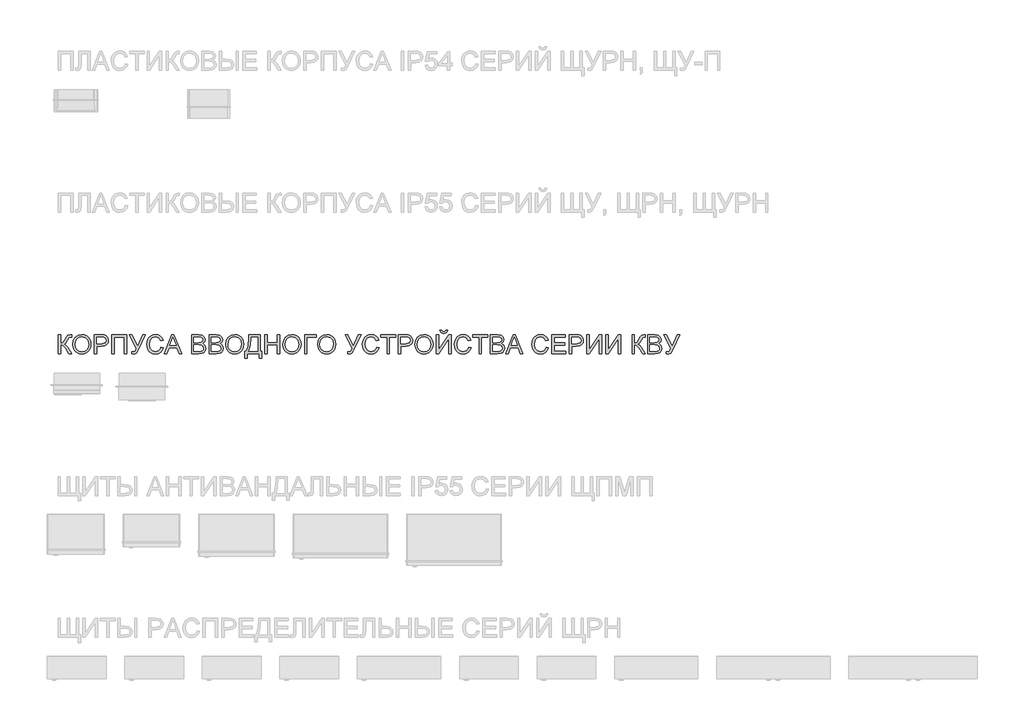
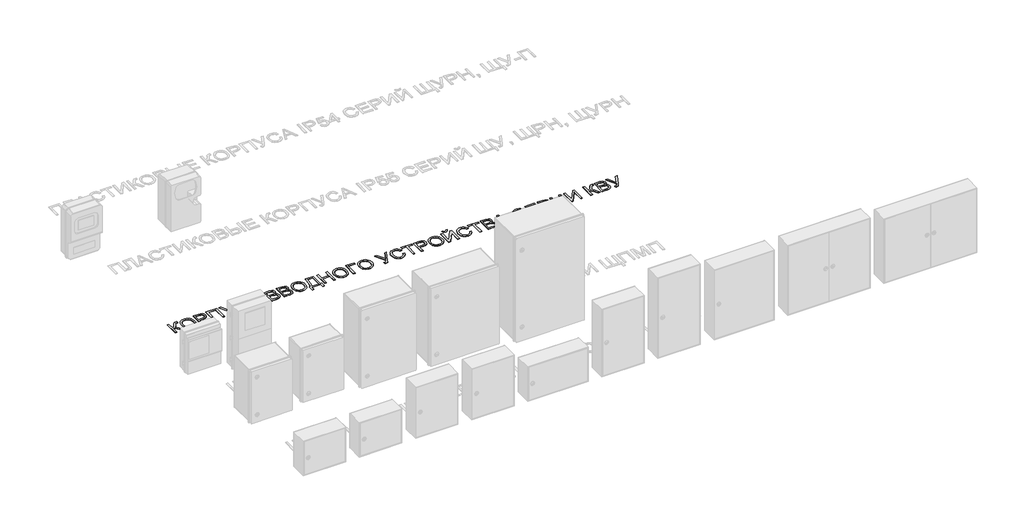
# One storey, part 14 of 25: 1 proxy.
"""IFC4 building model written with IfcOpenShell, lengths in millimetres."""

from ifc_helpers import new_model, si_unit, frame, origin, place, context, project, spatial, polyline, outline, extrude, element, save

model = new_model("IFC4")

# Units and contexts
model_context = context("Model", 3, world=origin())
ifc_project = project(units=[si_unit("LENGTHUNIT", "METRE", prefix="MILLI")], contexts=[model_context])

# Site, building, storey
site = spatial("IfcSite", under=ifc_project)
building = spatial("IfcBuilding", under=site)
storey = spatial("IfcBuildingStorey", under=building, Name="Этаж 01", Elevation=0.0)

# Proxy
placement = place(None, origin())
element("IfcBuildingElementProxy", 1, Name="Надпись на модели 1", ObjectType="Надпись на модели 1", at=placement, inside=storey, context=model_context, shape_type="SweptSolid", body=[
    extrude(outline(polyline([(-19038.1210387, 11386.6915941), (-19025.564, 11386.6915941), (-19025.564, 11342.7419585), (-19011.5231705, 11346.0651591), (-19001.7252467, 11362.8773663), (-18994.7968024, 11376.9181958), (-18986.9486532, 11383.8711655), (-18975.7282523, 11386.6915941), (-18967.4876957, 11386.5444413), (-18967.4876957, 11373.9874026), (-18970.2590734, 11374.060979), (-18973.030451, 11374.1345554), (-18982.8406376, 11371.117923), (-18990.2963794, 11358.1930022), (-18999.1868609, 11342.4476529), (-19007.8566133, 11337.248254), (-18998.1629227, 11331.5706085), (-18988.6041222, 11319.737071), (-18967.4876957, 11286.235284), (-18982.0558227, 11286.235284), (-18999.9103622, 11314.5376722), (-19012.4796637, 11329.3142656), (-19025.564, 11333.3241794), (-19025.564, 11286.235284), (-19038.1210387, 11286.235284), (-19038.1210387, 11386.6915941)])), frame((0.0, 0.0, 40.0), z_axis=(0.0, 0.0, 1.0), x_axis=(1.0, 0.0, 0.0)), (0.0, 0.0, 1.0), 2.0),
    extrude(outline(polyline([(-18961.2091763, 11335.1390639), (-18957.8614501, 11357.353005), (-18947.8182716, 11374.1590808), (-18932.4837238, 11384.7356882), (-18913.2618896, 11388.261224), (-18900.0855828, 11386.605755), (-18888.2704394, 11381.6393481), (-18878.4602528, 11373.7114911), (-18871.2988166, 11363.1716719), (-18866.9210209, 11350.528794), (-18865.4617557, 11336.2917608), (-18866.997663, 11321.8646552), (-18871.605385, 11309.0439677), (-18879.0304699, 11298.4857544), (-18889.0184661, 11290.8460717), (-18900.7324419, 11286.2107585), (-18913.335466, 11284.6656541), (-18926.7141079, 11286.3732397), (-18938.5966963, 11291.4959965), (-18948.3823574, 11299.5710063), (-18955.4702171, 11310.1353509), (-18961.2091763, 11335.1390639)]), holes=[polyline([(-18948.6521375, 11335.0164366), (-18946.1413429, 11319.301744), (-18938.608959, 11307.327185), (-18927.2873906, 11299.7488159), (-18913.4090424, 11297.2226929), (-18899.328359, 11299.7733414), (-18887.9883965, 11307.4252869), (-18880.5111949, 11319.7677279), (-18878.0187944, 11336.3898627), (-18882.2862256, 11357.1138817), (-18894.7574252, 11370.8358802), (-18913.1883132, 11375.7041852), (-18926.6957138, 11373.3589375), (-18938.1797634, 11366.3231943), (-18946.034044, 11353.8060095), (-18948.6521375, 11335.0164366)])]), frame((0.0, 0.0, 40.0), z_axis=(0.0, 0.0, 1.0), x_axis=(1.0, 0.0, 0.0)), (0.0, 0.0, 1.0), 2.0),
    extrude(outline(polyline([(-18848.1958274, 11286.235284), (-18848.1958274, 11386.6915941), (-18810.9661694, 11386.6915941), (-18795.956584, 11385.735101), (-18783.7551645, 11381.0384742), (-18775.8457016, 11371.3263895), (-18772.8535947, 11357.6289165), (-18774.87388, 11345.7892476), (-18780.9347359, 11335.9238788), (-18792.268567, 11329.2652147), (-18810.1077781, 11327.04566), (-18835.6387886, 11327.04566), (-18835.6387886, 11286.235284), (-18848.1958274, 11286.235284)]), holes=[polyline([(-18835.6387886, 11339.6026988), (-18809.3720141, 11339.6026988), (-18790.8798125, 11344.2134864), (-18786.7779283, 11349.7623732), (-18785.4106335, 11357.1874581), (-18788.6357323, 11367.5862559), (-18797.109281, 11373.2761641), (-18809.6663197, 11374.1345554), (-18835.6387886, 11374.1345554), (-18835.6387886, 11339.6026988)])]), frame((0.0, 0.0, 40.0), z_axis=(0.0, 0.0, 1.0), x_axis=(1.0, 0.0, 0.0)), (0.0, 0.0, 1.0), 2.0),
    extrude(outline(polyline([(-18755.5876664, 11386.6915941), (-18677.1061741, 11386.6915941), (-18677.1061741, 11286.235284), (-18689.6632129, 11286.235284), (-18689.6632129, 11374.1345554), (-18743.0306277, 11374.1345554), (-18743.0306277, 11286.235284), (-18755.5876664, 11286.235284), (-18755.5876664, 11386.6915941)])), frame((0.0, 0.0, 40.0), z_axis=(0.0, 0.0, 1.0), x_axis=(1.0, 0.0, 0.0)), (0.0, 0.0, 1.0), 2.0),
    extrude(outline(polyline([(-18662.1946906, 11386.6915941), (-18648.2887512, 11386.6915941), (-18618.2450549, 11327.1928128), (-18591.217991, 11386.6915941), (-18577.4346789, 11386.6915941), (-18615.5717791, 11308.430831), (-18625.9460513, 11289.2028654), (-18637.5465969, 11284.6656541), (-18648.8528369, 11286.235284), (-18648.8528369, 11297.2226929), (-18638.969074, 11297.2226929), (-18631.6359595, 11300.0185961), (-18624.8424053, 11312.7473131), (-18662.1946906, 11386.6915941)])), frame((0.0, 0.0, 40.0), z_axis=(0.0, 0.0, 1.0), x_axis=(1.0, 0.0, 0.0)), (0.0, 0.0, 1.0), 2.0),
    extrude(outline(polyline([(-18495.029112, 11321.944363), (-18482.4720732, 11318.7070014), (-18488.2662146, 11304.0744951), (-18497.3590313, 11293.3844574), (-18509.3029334, 11286.845355), (-18523.6503312, 11284.6656541), (-18538.2153925, 11286.3149918), (-18549.7822156, 11291.2630046), (-18558.6481717, 11299.3380144), (-18565.1106321, 11310.3683429), (-18570.3713446, 11337.2237285), (-18568.8844882, 11351.8715633), (-18564.423919, 11364.5205726), (-18557.2226289, 11374.7691518), (-18547.51361, 11382.2156965), (-18535.9989035, 11386.7498421), (-18523.3805511, 11388.261224), (-18509.6125674, 11386.305318), (-18498.2296853, 11380.4376002), (-18489.5875241, 11371.0198211), (-18484.0417031, 11358.4137314), (-18496.5987418, 11355.4216246), (-18506.8994377, 11370.8604056), (-18523.8710604, 11375.7041852), (-18543.5159589, 11370.3331081), (-18554.6137325, 11355.9121339), (-18557.8143058, 11337.248254), (-18554.0251213, 11315.6167927), (-18542.228372, 11301.7966924), (-18524.90113, 11297.2226929), (-18514.4195588, 11298.78006), (-18505.6854271, 11303.4521614), (-18499.0911423, 11311.189946), (-18495.029112, 11321.944363)])), frame((0.0, 0.0, 40.0), z_axis=(0.0, 0.0, 1.0), x_axis=(1.0, 0.0, 0.0)), (0.0, 0.0, 1.0), 2.0),
    extrude(outline(polyline([(-18476.9047924, 11286.235284), (-18436.8056549, 11386.6915941), (-18426.1125516, 11386.6915941), (-18386.0134141, 11286.235284), (-18399.2816914, 11286.235284), (-18410.7841351, 11317.6278809), (-18452.1585968, 11317.6278809), (-18463.6365151, 11286.235284), (-18476.9047924, 11286.235284)]), holes=[polyline([(-18447.5478091, 11330.1849197), (-18415.3703973, 11330.1849197), (-18424.4202944, 11354.8820643), (-18431.4591032, 11374.1345554), (-18437.7130971, 11357.0403053), (-18447.5478091, 11330.1849197)])]), frame((0.0, 0.0, 40.0), z_axis=(0.0, 0.0, 1.0), x_axis=(1.0, 0.0, 0.0)), (0.0, 0.0, 1.0), 2.0),
    extrude(outline(polyline([(-18333.3572378, 11286.235284), (-18333.3572378, 11386.6915941), (-18295.0239339, 11386.6915941), (-18276.2496894, 11383.7362754), (-18265.1641787, 11374.6495902), (-18261.1542649, 11361.7982458), (-18264.5265165, 11350.0628102), (-18274.7168478, 11341.1723286), (-18262.34375, 11331.8036005), (-18258.0150052, 11316.1808784), (-18260.9703239, 11302.6796092), (-18268.2911756, 11293.0656264), (-18279.2172709, 11287.9643294), (-18295.3182395, 11286.235284), (-18333.3572378, 11286.235284)]), holes=[polyline([(-18320.8001991, 11345.8812181), (-18297.868888, 11345.8812181), (-18284.4779834, 11346.9603387), (-18276.4213677, 11351.6079145), (-18273.7113037, 11359.7871576), (-18276.2374267, 11367.9786633), (-18283.4724393, 11372.8224429), (-18299.6101961, 11374.1345554), (-18320.8001991, 11374.1345554), (-18320.8001991, 11345.8812181)]), polyline([(-18320.8001991, 11298.7923228), (-18295.0484594, 11298.7923228), (-18285.7287822, 11299.2828321), (-18277.8438448, 11302.0174216), (-18272.6199204, 11307.5969652), (-18270.572044, 11316.0582511), (-18272.9755397, 11325.8193867), (-18280.7623753, 11331.6441849), (-18296.2747327, 11333.3241794), (-18320.8001991, 11333.3241794), (-18320.8001991, 11298.7923228)])]), frame((0.0, 0.0, 40.0), z_axis=(0.0, 0.0, 1.0), x_axis=(1.0, 0.0, 0.0)), (0.0, 0.0, 1.0), 2.0),
    extrude(outline(polyline([(-18240.7490769, 11286.235284), (-18240.7490769, 11386.6915941), (-18202.415773, 11386.6915941), (-18183.6415285, 11383.7362754), (-18172.5560177, 11374.6495902), (-18168.546104, 11361.7982458), (-18171.9183556, 11350.0628102), (-18182.1086869, 11341.1723286), (-18169.7355891, 11331.8036005), (-18165.4068443, 11316.1808784), (-18168.362163, 11302.6796092), (-18175.6830147, 11293.0656264), (-18186.60911, 11287.9643294), (-18202.7100786, 11286.235284), (-18240.7490769, 11286.235284)]), holes=[polyline([(-18228.1920381, 11345.8812181), (-18205.2607271, 11345.8812181), (-18191.8698225, 11346.9603387), (-18183.8132068, 11351.6079145), (-18181.1031428, 11359.7871576), (-18183.6292658, 11367.9786633), (-18190.8642784, 11372.8224429), (-18207.0020352, 11374.1345554), (-18228.1920381, 11374.1345554), (-18228.1920381, 11345.8812181)]), polyline([(-18228.1920381, 11298.7923228), (-18202.4402985, 11298.7923228), (-18193.1206213, 11299.2828321), (-18185.2356838, 11302.0174216), (-18180.0117595, 11307.5969652), (-18177.9638831, 11316.0582511), (-18180.3673788, 11325.8193867), (-18188.1542143, 11331.6441849), (-18203.6665718, 11333.3241794), (-18228.1920381, 11333.3241794), (-18228.1920381, 11298.7923228)])]), frame((0.0, 0.0, 40.0), z_axis=(0.0, 0.0, 1.0), x_axis=(1.0, 0.0, 0.0)), (0.0, 0.0, 1.0), 2.0),
    extrude(outline(polyline([(-18152.8498055, 11335.1390639), (-18149.5020794, 11357.353005), (-18139.4589009, 11374.1590808), (-18124.1243531, 11384.7356882), (-18104.9025188, 11388.261224), (-18091.726212, 11386.605755), (-18079.9110686, 11381.6393481), (-18070.1008821, 11373.7114911), (-18062.9394459, 11363.1716719), (-18058.5616502, 11350.528794), (-18057.1023849, 11336.2917608), (-18058.6382923, 11321.8646552), (-18063.2460142, 11309.0439677), (-18070.6710992, 11298.4857544), (-18080.6590953, 11290.8460717), (-18092.3730712, 11286.2107585), (-18104.9760952, 11284.6656541), (-18118.3547371, 11286.3732397), (-18130.2373256, 11291.4959965), (-18140.0229866, 11299.5710063), (-18147.1108464, 11310.1353509), (-18152.8498055, 11335.1390639)]), holes=[polyline([(-18140.2927668, 11335.0164366), (-18137.7819721, 11319.301744), (-18130.2495883, 11307.327185), (-18118.9280199, 11299.7488159), (-18105.0496716, 11297.2226929), (-18090.9689883, 11299.7733414), (-18079.6290258, 11307.4252869), (-18072.1518242, 11319.7677279), (-18069.6594237, 11336.3898627), (-18073.9268548, 11357.1138817), (-18086.3980545, 11370.8358802), (-18104.8289424, 11375.7041852), (-18118.336343, 11373.3589375), (-18129.8203926, 11366.3231943), (-18137.6746732, 11353.8060095), (-18140.2927668, 11335.0164366)])]), frame((0.0, 0.0, 40.0), z_axis=(0.0, 0.0, 1.0), x_axis=(1.0, 0.0, 0.0)), (0.0, 0.0, 1.0), 2.0),
    extrude(outline(polyline([(-18030.4186775, 11386.6915941), (-17970.7727434, 11386.6915941), (-17970.7727434, 11298.7923228), (-17961.3549643, 11298.7923228), (-17961.3549643, 11262.6908363), (-17973.9120031, 11262.6908363), (-17973.9120031, 11286.235284), (-18038.2668268, 11286.235284), (-18038.2668268, 11262.6908363), (-18050.8238655, 11262.6908363), (-18050.8238655, 11298.7923228), (-18042.9757163, 11298.7923228), (-18033.5579372, 11326.2056628), (-18030.4186775, 11372.1479926), (-18030.4186775, 11386.6915941)]), holes=[polyline([(-17983.3297822, 11374.1345554), (-18017.8616388, 11374.1345554), (-18017.8616388, 11369.0823093), (-18020.4122873, 11334.67308), (-18024.1892091, 11314.7890582), (-18030.4186775, 11298.7923228), (-17983.3297822, 11298.7923228), (-17983.3297822, 11374.1345554)])]), frame((0.0, 0.0, 40.0), z_axis=(0.0, 0.0, 1.0), x_axis=(1.0, 0.0, 0.0)), (0.0, 0.0, 1.0), 2.0),
    extrude(outline(polyline([(-17945.6586659, 11286.235284), (-17945.6586659, 11386.6915941), (-17933.1016271, 11386.6915941), (-17933.1016271, 11345.8812181), (-17879.7342123, 11345.8812181), (-17879.7342123, 11386.6915941), (-17867.1771735, 11386.6915941), (-17867.1771735, 11286.235284), (-17879.7342123, 11286.235284), (-17879.7342123, 11333.3241794), (-17933.1016271, 11333.3241794), (-17933.1016271, 11286.235284), (-17945.6586659, 11286.235284)])), frame((0.0, 0.0, 40.0), z_axis=(0.0, 0.0, 1.0), x_axis=(1.0, 0.0, 0.0)), (0.0, 0.0, 1.0), 2.0),
    extrude(outline(polyline([(-17849.9112452, 11335.1390639), (-17846.5635191, 11357.353005), (-17836.5203406, 11374.1590808), (-17821.1857928, 11384.7356882), (-17801.9639585, 11388.261224), (-17788.7876517, 11386.605755), (-17776.9725083, 11381.6393481), (-17767.1623218, 11373.7114911), (-17760.0008856, 11363.1716719), (-17755.6230899, 11350.528794), (-17754.1638246, 11336.2917608), (-17755.699732, 11321.8646552), (-17760.3074539, 11309.0439677), (-17767.7325389, 11298.4857544), (-17777.7205351, 11290.8460717), (-17789.4345109, 11286.2107585), (-17802.0375349, 11284.6656541), (-17815.4161768, 11286.3732397), (-17827.2987653, 11291.4959965), (-17837.0844263, 11299.5710063), (-17844.1722861, 11310.1353509), (-17849.9112452, 11335.1390639)]), holes=[polyline([(-17837.3542065, 11335.0164366), (-17834.8434119, 11319.301744), (-17827.311028, 11307.327185), (-17815.9894596, 11299.7488159), (-17802.1111113, 11297.2226929), (-17788.030428, 11299.7733414), (-17776.6904655, 11307.4252869), (-17769.2132639, 11319.7677279), (-17766.7208634, 11336.3898627), (-17770.9882945, 11357.1138817), (-17783.4594942, 11370.8358802), (-17801.8903821, 11375.7041852), (-17815.3977827, 11373.3589375), (-17826.8818323, 11366.3231943), (-17834.7361129, 11353.8060095), (-17837.3542065, 11335.0164366)])]), frame((0.0, 0.0, 40.0), z_axis=(0.0, 0.0, 1.0), x_axis=(1.0, 0.0, 0.0)), (0.0, 0.0, 1.0), 2.0),
    extrude(outline(polyline([(-17735.3282665, 11386.6915941), (-17672.5430726, 11386.6915941), (-17672.5430726, 11374.1345554), (-17722.7712277, 11374.1345554), (-17722.7712277, 11286.235284), (-17735.3282665, 11286.235284), (-17735.3282665, 11386.6915941)])), frame((0.0, 0.0, 40.0), z_axis=(0.0, 0.0, 1.0), x_axis=(1.0, 0.0, 0.0)), (0.0, 0.0, 1.0), 2.0),
    extrude(outline(polyline([(-17666.2645532, 11335.1390639), (-17662.9168271, 11357.353005), (-17652.8736486, 11374.1590808), (-17637.5391008, 11384.7356882), (-17618.3172665, 11388.261224), (-17605.1409597, 11386.605755), (-17593.3258163, 11381.6393481), (-17583.5156298, 11373.7114911), (-17576.3541936, 11363.1716719), (-17571.9763979, 11350.528794), (-17570.5171326, 11336.2917608), (-17572.05304, 11321.8646552), (-17576.660762, 11309.0439677), (-17584.0858469, 11298.4857544), (-17594.0738431, 11290.8460717), (-17605.7878189, 11286.2107585), (-17618.3908429, 11284.6656541), (-17631.7694848, 11286.3732397), (-17643.6520733, 11291.4959965), (-17653.4377343, 11299.5710063), (-17660.5255941, 11310.1353509), (-17666.2645532, 11335.1390639)]), holes=[polyline([(-17653.7075145, 11335.0164366), (-17651.1967199, 11319.301744), (-17643.664336, 11307.327185), (-17632.3427676, 11299.7488159), (-17618.4644193, 11297.2226929), (-17604.383736, 11299.7733414), (-17593.0437735, 11307.4252869), (-17585.5665719, 11319.7677279), (-17583.0741714, 11336.3898627), (-17587.3416025, 11357.1138817), (-17599.8128022, 11370.8358802), (-17618.2436901, 11375.7041852), (-17631.7510907, 11373.3589375), (-17643.2351403, 11366.3231943), (-17651.0894209, 11353.8060095), (-17653.7075145, 11335.0164366)])]), frame((0.0, 0.0, 40.0), z_axis=(0.0, 0.0, 1.0), x_axis=(1.0, 0.0, 0.0)), (0.0, 0.0, 1.0), 2.0),
    extrude(outline(polyline([(-17521.0737925, 11386.6915941), (-17507.1678531, 11386.6915941), (-17477.1241568, 11327.1928128), (-17450.0970929, 11386.6915941), (-17436.3137808, 11386.6915941), (-17474.450881, 11308.430831), (-17484.8251532, 11289.2028654), (-17496.4256988, 11284.6656541), (-17507.7319388, 11286.235284), (-17507.7319388, 11297.2226929), (-17497.8481759, 11297.2226929), (-17490.5150614, 11300.0185961), (-17483.7215072, 11312.7473131), (-17521.0737925, 11386.6915941)])), frame((0.0, 0.0, 40.0), z_axis=(0.0, 0.0, 1.0), x_axis=(1.0, 0.0, 0.0)), (0.0, 0.0, 1.0), 2.0),
    extrude(outline(polyline([(-17353.9082139, 11321.944363), (-17341.3511751, 11318.7070014), (-17347.1453165, 11304.0744951), (-17356.2381332, 11293.3844574), (-17368.1820353, 11286.845355), (-17382.5294331, 11284.6656541), (-17397.0944944, 11286.3149918), (-17408.6613175, 11291.2630046), (-17417.5272736, 11299.3380144), (-17423.989734, 11310.3683429), (-17429.2504465, 11337.2237285), (-17427.7635901, 11351.8715633), (-17423.3030209, 11364.5205726), (-17416.1017308, 11374.7691518), (-17406.3927119, 11382.2156965), (-17394.8780054, 11386.7498421), (-17382.259653, 11388.261224), (-17368.4916693, 11386.305318), (-17357.1087872, 11380.4376002), (-17348.466626, 11371.0198211), (-17342.920805, 11358.4137314), (-17355.4778437, 11355.4216246), (-17365.7785396, 11370.8604056), (-17382.7501623, 11375.7041852), (-17402.3950608, 11370.3331081), (-17413.4928344, 11355.9121339), (-17416.6934077, 11337.248254), (-17412.9042232, 11315.6167927), (-17401.1074739, 11301.7966924), (-17383.7802319, 11297.2226929), (-17373.2986607, 11298.78006), (-17364.564529, 11303.4521614), (-17357.9702442, 11311.189946), (-17353.9082139, 11321.944363)])), frame((0.0, 0.0, 40.0), z_axis=(0.0, 0.0, 1.0), x_axis=(1.0, 0.0, 0.0)), (0.0, 0.0, 1.0), 2.0),
    extrude(outline(polyline([(-17298.9711693, 11286.235284), (-17298.9711693, 11374.1345554), (-17331.933396, 11374.1345554), (-17331.933396, 11386.6915941), (-17253.4519037, 11386.6915941), (-17253.4519037, 11374.1345554), (-17286.4141305, 11374.1345554), (-17286.4141305, 11286.235284), (-17298.9711693, 11286.235284)])), frame((0.0, 0.0, 40.0), z_axis=(0.0, 0.0, 1.0), x_axis=(1.0, 0.0, 0.0)), (0.0, 0.0, 1.0), 2.0),
    extrude(outline(polyline([(-17239.3252351, 11286.235284), (-17239.3252351, 11386.6915941), (-17202.0955772, 11386.6915941), (-17187.0859918, 11385.735101), (-17174.8845723, 11381.0384742), (-17166.9751094, 11371.3263895), (-17163.9830025, 11357.6289165), (-17166.0032878, 11345.7892476), (-17172.0641437, 11335.9238788), (-17183.3979748, 11329.2652147), (-17201.2371859, 11327.04566), (-17226.7681963, 11327.04566), (-17226.7681963, 11286.235284), (-17239.3252351, 11286.235284)]), holes=[polyline([(-17226.7681963, 11339.6026988), (-17200.5014219, 11339.6026988), (-17182.0092203, 11344.2134864), (-17177.907336, 11349.7623732), (-17176.5400413, 11357.1874581), (-17179.7651401, 11367.5862559), (-17188.2386887, 11373.2761641), (-17200.7957275, 11374.1345554), (-17226.7681963, 11374.1345554), (-17226.7681963, 11339.6026988)])]), frame((0.0, 0.0, 40.0), z_axis=(0.0, 0.0, 1.0), x_axis=(1.0, 0.0, 0.0)), (0.0, 0.0, 1.0), 2.0),
    extrude(outline(polyline([(-17151.4259637, 11335.1390639), (-17148.0782376, 11357.353005), (-17138.0350591, 11374.1590808), (-17122.7005113, 11384.7356882), (-17103.478677, 11388.261224), (-17090.3023702, 11386.605755), (-17078.4872268, 11381.6393481), (-17068.6770403, 11373.7114911), (-17061.5156041, 11363.1716719), (-17057.1378084, 11350.528794), (-17055.6785431, 11336.2917608), (-17057.2144504, 11321.8646552), (-17061.8221724, 11309.0439677), (-17069.2472574, 11298.4857544), (-17079.2352535, 11290.8460717), (-17090.9492294, 11286.2107585), (-17103.5522534, 11284.6656541), (-17116.9308953, 11286.3732397), (-17128.8134838, 11291.4959965), (-17138.5991448, 11299.5710063), (-17145.6870046, 11310.1353509), (-17151.4259637, 11335.1390639)]), holes=[polyline([(-17138.868925, 11335.0164366), (-17136.3581303, 11319.301744), (-17128.8257465, 11307.327185), (-17117.5041781, 11299.7488159), (-17103.6258298, 11297.2226929), (-17089.5451465, 11299.7733414), (-17078.205184, 11307.4252869), (-17070.7279824, 11319.7677279), (-17068.2355819, 11336.3898627), (-17072.503013, 11357.1138817), (-17084.9742127, 11370.8358802), (-17103.4051006, 11375.7041852), (-17116.9125012, 11373.3589375), (-17128.3965508, 11366.3231943), (-17136.2508314, 11353.8060095), (-17138.868925, 11335.0164366)])]), frame((0.0, 0.0, 40.0), z_axis=(0.0, 0.0, 1.0), x_axis=(1.0, 0.0, 0.0)), (0.0, 0.0, 1.0), 2.0),
    extrude(outline(polyline([(-17038.4126148, 11386.6915941), (-17025.855576, 11386.6915941), (-17025.855576, 11307.1309813), (-16973.2729762, 11386.6915941), (-16959.9311225, 11386.6915941), (-16959.9311225, 11286.235284), (-16972.4881613, 11286.235284), (-16972.4881613, 11365.5751676), (-17024.9481338, 11286.235284), (-17038.4126148, 11286.235284), (-17038.4126148, 11386.6915941)])), frame((0.0, 0.0, 40.0), z_axis=(0.0, 0.0, 1.0), x_axis=(1.0, 0.0, 0.0)), (0.0, 0.0, 1.0), 2.0),
    extrude(outline(polyline([(-16988.1844597, 11411.8056717), (-16978.7666807, 11411.8056717), (-16984.861259, 11397.8384186), (-16998.3870537, 11392.9701135), (-17013.0287571, 11397.8016304), (-17019.5770567, 11411.8056717), (-17010.1592776, 11411.8056717), (-17006.6276104, 11404.7300746), (-16999.5152252, 11402.3878926), (-16991.7161269, 11404.6564982), (-16988.1844597, 11411.8056717)])), frame((0.0, 0.0, 40.0), z_axis=(0.0, 0.0, 1.0), x_axis=(1.0, 0.0, 0.0)), (0.0, 0.0, 1.0), 2.0),
    extrude(outline(polyline([(-16867.3229616, 11321.944363), (-16854.7659228, 11318.7070014), (-16860.5600642, 11304.0744951), (-16869.6528809, 11293.3844574), (-16881.596783, 11286.845355), (-16895.9441808, 11284.6656541), (-16910.5092421, 11286.3149918), (-16922.0760652, 11291.2630046), (-16930.9420213, 11299.3380144), (-16937.4044817, 11310.3683429), (-16942.6651942, 11337.2237285), (-16941.1783378, 11351.8715633), (-16936.7177686, 11364.5205726), (-16929.5164786, 11374.7691518), (-16919.8074596, 11382.2156965), (-16908.2927531, 11386.7498421), (-16895.6744007, 11388.261224), (-16881.906417, 11386.305318), (-16870.5235349, 11380.4376002), (-16861.8813737, 11371.0198211), (-16856.3355527, 11358.4137314), (-16868.8925914, 11355.4216246), (-16879.1932873, 11370.8604056), (-16896.16491, 11375.7041852), (-16915.8098086, 11370.3331081), (-16926.9075821, 11355.9121339), (-16930.1081554, 11337.248254), (-16926.3189709, 11315.6167927), (-16914.5222216, 11301.7966924), (-16897.1949796, 11297.2226929), (-16886.7134084, 11298.78006), (-16877.9792767, 11303.4521614), (-16871.384992, 11311.189946), (-16867.3229616, 11321.944363)])), frame((0.0, 0.0, 40.0), z_axis=(0.0, 0.0, 1.0), x_axis=(1.0, 0.0, 0.0)), (0.0, 0.0, 1.0), 2.0),
    extrude(outline(polyline([(-16812.385917, 11286.235284), (-16812.385917, 11374.1345554), (-16845.3481437, 11374.1345554), (-16845.3481437, 11386.6915941), (-16766.8666514, 11386.6915941), (-16766.8666514, 11374.1345554), (-16799.8288782, 11374.1345554), (-16799.8288782, 11286.235284), (-16812.385917, 11286.235284)])), frame((0.0, 0.0, 40.0), z_axis=(0.0, 0.0, 1.0), x_axis=(1.0, 0.0, 0.0)), (0.0, 0.0, 1.0), 2.0),
    extrude(outline(polyline([(-16752.7399828, 11286.235284), (-16752.7399828, 11386.6915941), (-16714.4066789, 11386.6915941), (-16695.6324344, 11383.7362754), (-16684.5469237, 11374.6495902), (-16680.5370099, 11361.7982458), (-16683.9092615, 11350.0628102), (-16694.0995928, 11341.1723286), (-16681.726495, 11331.8036005), (-16677.3977502, 11316.1808784), (-16680.3530689, 11302.6796092), (-16687.6739206, 11293.0656264), (-16698.6000159, 11287.9643294), (-16714.7009845, 11286.235284), (-16752.7399828, 11286.235284)]), holes=[polyline([(-16740.1829441, 11345.8812181), (-16717.251633, 11345.8812181), (-16703.8607284, 11346.9603387), (-16695.8041127, 11351.6079145), (-16693.0940487, 11359.7871576), (-16695.6201717, 11367.9786633), (-16702.8551843, 11372.8224429), (-16718.9929411, 11374.1345554), (-16740.1829441, 11374.1345554), (-16740.1829441, 11345.8812181)]), polyline([(-16740.1829441, 11298.7923228), (-16714.4312044, 11298.7923228), (-16705.1115272, 11299.2828321), (-16697.2265898, 11302.0174216), (-16692.0026654, 11307.5969652), (-16689.954789, 11316.0582511), (-16692.3582847, 11325.8193867), (-16700.1451202, 11331.6441849), (-16715.6574777, 11333.3241794), (-16740.1829441, 11333.3241794), (-16740.1829441, 11298.7923228)])]), frame((0.0, 0.0, 40.0), z_axis=(0.0, 0.0, 1.0), x_axis=(1.0, 0.0, 0.0)), (0.0, 0.0, 1.0), 2.0),
    extrude(outline(polyline([(-16671.8304694, 11286.235284), (-16631.7313319, 11386.6915941), (-16621.0382286, 11386.6915941), (-16580.9390911, 11286.235284), (-16594.2073684, 11286.235284), (-16605.7098121, 11317.6278809), (-16647.0842738, 11317.6278809), (-16658.5621921, 11286.235284), (-16671.8304694, 11286.235284)]), holes=[polyline([(-16642.4734861, 11330.1849197), (-16610.2960743, 11330.1849197), (-16619.3459714, 11354.8820643), (-16626.3847802, 11374.1345554), (-16632.6387741, 11357.0403053), (-16642.4734861, 11330.1849197)])]), frame((0.0, 0.0, 40.0), z_axis=(0.0, 0.0, 1.0), x_axis=(1.0, 0.0, 0.0)), (0.0, 0.0, 1.0), 2.0),
    extrude(outline(polyline([(-16457.6495718, 11321.944363), (-16445.092533, 11318.7070014), (-16450.8866744, 11304.0744951), (-16459.9794911, 11293.3844574), (-16471.9233932, 11286.845355), (-16486.270791, 11284.6656541), (-16500.8358523, 11286.3149918), (-16512.4026754, 11291.2630046), (-16521.2686315, 11299.3380144), (-16527.7310918, 11310.3683429), (-16532.9918044, 11337.2237285), (-16531.504948, 11351.8715633), (-16527.0443788, 11364.5205726), (-16519.8430887, 11374.7691518), (-16510.1340697, 11382.2156965), (-16498.6193633, 11386.7498421), (-16486.0010109, 11388.261224), (-16472.2330272, 11386.305318), (-16460.8501451, 11380.4376002), (-16452.2079839, 11371.0198211), (-16446.6621628, 11358.4137314), (-16459.2192016, 11355.4216246), (-16469.5198975, 11370.8604056), (-16486.4915202, 11375.7041852), (-16506.1364187, 11370.3331081), (-16517.2341922, 11355.9121339), (-16520.4347656, 11337.248254), (-16516.6455811, 11315.6167927), (-16504.8488317, 11301.7966924), (-16487.5215898, 11297.2226929), (-16477.0400186, 11298.78006), (-16468.3058869, 11303.4521614), (-16461.7116021, 11311.189946), (-16457.6495718, 11321.944363)])), frame((0.0, 0.0, 40.0), z_axis=(0.0, 0.0, 1.0), x_axis=(1.0, 0.0, 0.0)), (0.0, 0.0, 1.0), 2.0),
    extrude(outline(polyline([(-16427.8266047, 11286.235284), (-16427.8266047, 11386.6915941), (-16355.6236318, 11386.6915941), (-16355.6236318, 11374.1345554), (-16415.2695659, 11374.1345554), (-16415.2695659, 11344.3115883), (-16358.7628915, 11344.3115883), (-16358.7628915, 11331.7545495), (-16415.2695659, 11331.7545495), (-16415.2695659, 11298.7923228), (-16354.0540019, 11298.7923228), (-16354.0540019, 11286.235284), (-16427.8266047, 11286.235284)])), frame((0.0, 0.0, 40.0), z_axis=(0.0, 0.0, 1.0), x_axis=(1.0, 0.0, 0.0)), (0.0, 0.0, 1.0), 2.0),
    extrude(outline(polyline([(-16335.2184438, 11286.235284), (-16335.2184438, 11386.6915941), (-16297.9887859, 11386.6915941), (-16282.9792004, 11385.735101), (-16270.7777809, 11381.0384742), (-16262.868318, 11371.3263895), (-16259.8762112, 11357.6289165), (-16261.8964964, 11345.7892476), (-16267.9573523, 11335.9238788), (-16279.2911834, 11329.2652147), (-16297.1303945, 11327.04566), (-16322.661405, 11327.04566), (-16322.661405, 11286.235284), (-16335.2184438, 11286.235284)]), holes=[polyline([(-16322.661405, 11339.6026988), (-16296.3946305, 11339.6026988), (-16277.9024289, 11344.2134864), (-16273.8005447, 11349.7623732), (-16272.4332499, 11357.1874581), (-16275.6583487, 11367.5862559), (-16284.1318974, 11373.2761641), (-16296.6889361, 11374.1345554), (-16322.661405, 11374.1345554), (-16322.661405, 11339.6026988)])]), frame((0.0, 0.0, 40.0), z_axis=(0.0, 0.0, 1.0), x_axis=(1.0, 0.0, 0.0)), (0.0, 0.0, 1.0), 2.0),
    extrude(outline(polyline([(-16242.6102828, 11386.6915941), (-16230.0532441, 11386.6915941), (-16230.0532441, 11307.1309813), (-16177.4706442, 11386.6915941), (-16164.1287905, 11386.6915941), (-16164.1287905, 11286.235284), (-16176.6858293, 11286.235284), (-16176.6858293, 11365.5751676), (-16229.1458018, 11286.235284), (-16242.6102828, 11286.235284), (-16242.6102828, 11386.6915941)])), frame((0.0, 0.0, 40.0), z_axis=(0.0, 0.0, 1.0), x_axis=(1.0, 0.0, 0.0)), (0.0, 0.0, 1.0), 2.0),
    extrude(outline(polyline([(-16142.1539727, 11386.6915941), (-16129.5969339, 11386.6915941), (-16129.5969339, 11307.1309813), (-16077.0143341, 11386.6915941), (-16063.6724804, 11386.6915941), (-16063.6724804, 11286.235284), (-16076.2295192, 11286.235284), (-16076.2295192, 11365.5751676), (-16128.6894917, 11286.235284), (-16142.1539727, 11286.235284), (-16142.1539727, 11386.6915941)])), frame((0.0, 0.0, 40.0), z_axis=(0.0, 0.0, 1.0), x_axis=(1.0, 0.0, 0.0)), (0.0, 0.0, 1.0), 2.0),
    extrude(outline(polyline([(-16002.4569164, 11386.6915941), (-15989.8998776, 11386.6915941), (-15989.8998776, 11342.7419585), (-15975.8590481, 11346.0651591), (-15966.0611243, 11362.8773663), (-15959.1326801, 11376.9181958), (-15951.2845309, 11383.8711655), (-15940.06413, 11386.6915941), (-15931.8235733, 11386.5444413), (-15931.8235733, 11373.9874026), (-15934.594951, 11374.060979), (-15937.3663287, 11374.1345554), (-15947.1765153, 11371.117923), (-15954.632257, 11358.1930022), (-15963.5227386, 11342.4476529), (-15972.1924909, 11337.248254), (-15962.4988004, 11331.5706085), (-15952.9399998, 11319.737071), (-15931.8235733, 11286.235284), (-15946.3917003, 11286.235284), (-15964.2462398, 11314.5376722), (-15976.8155413, 11329.3142656), (-15989.8998776, 11333.3241794), (-15989.8998776, 11286.235284), (-16002.4569164, 11286.235284), (-16002.4569164, 11386.6915941)])), frame((0.0, 0.0, 40.0), z_axis=(0.0, 0.0, 1.0), x_axis=(1.0, 0.0, 0.0)), (0.0, 0.0, 1.0), 2.0),
    extrude(outline(polyline([(-15920.8361644, 11286.235284), (-15920.8361644, 11386.6915941), (-15882.5028605, 11386.6915941), (-15863.728616, 11383.7362754), (-15852.6431052, 11374.6495902), (-15848.6331915, 11361.7982458), (-15852.0054431, 11350.0628102), (-15862.1957744, 11341.1723286), (-15849.8226766, 11331.8036005), (-15845.4939318, 11316.1808784), (-15848.4492505, 11302.6796092), (-15855.7701022, 11293.0656264), (-15866.6961974, 11287.9643294), (-15882.7971661, 11286.235284), (-15920.8361644, 11286.235284)]), holes=[polyline([(-15908.2791256, 11298.7923228), (-15882.527386, 11298.7923228), (-15873.2077088, 11299.2828321), (-15865.3227713, 11302.0174216), (-15860.098847, 11307.5969652), (-15858.0509706, 11316.0582511), (-15860.4544663, 11325.8193867), (-15868.2413018, 11331.6441849), (-15883.7536593, 11333.3241794), (-15908.2791256, 11333.3241794), (-15908.2791256, 11298.7923228)]), polyline([(-15908.2791256, 11345.8812181), (-15885.3478146, 11345.8812181), (-15871.95691, 11346.9603387), (-15863.9002943, 11351.6079145), (-15861.1902302, 11359.7871576), (-15863.7163533, 11367.9786633), (-15870.9513659, 11372.8224429), (-15887.0891227, 11374.1345554), (-15908.2791256, 11374.1345554), (-15908.2791256, 11345.8812181)])]), frame((0.0, 0.0, 40.0), z_axis=(0.0, 0.0, 1.0), x_axis=(1.0, 0.0, 0.0)), (0.0, 0.0, 1.0), 2.0),
    extrude(outline(polyline([(-15835.2913378, 11386.6915941), (-15821.3853984, 11386.6915941), (-15791.3417021, 11327.1928128), (-15764.3146382, 11386.6915941), (-15750.5313261, 11386.6915941), (-15788.6684263, 11308.430831), (-15799.0426985, 11289.2028654), (-15810.6432441, 11284.6656541), (-15821.9494841, 11286.235284), (-15821.9494841, 11297.2226929), (-15812.0657212, 11297.2226929), (-15804.7326067, 11300.0185961), (-15797.9390525, 11312.7473131), (-15835.2913378, 11386.6915941)])), frame((0.0, 0.0, 40.0), z_axis=(0.0, 0.0, 1.0), x_axis=(1.0, 0.0, 0.0)), (0.0, 0.0, 1.0), 2.0),
])

save(model, "model.ifc")
